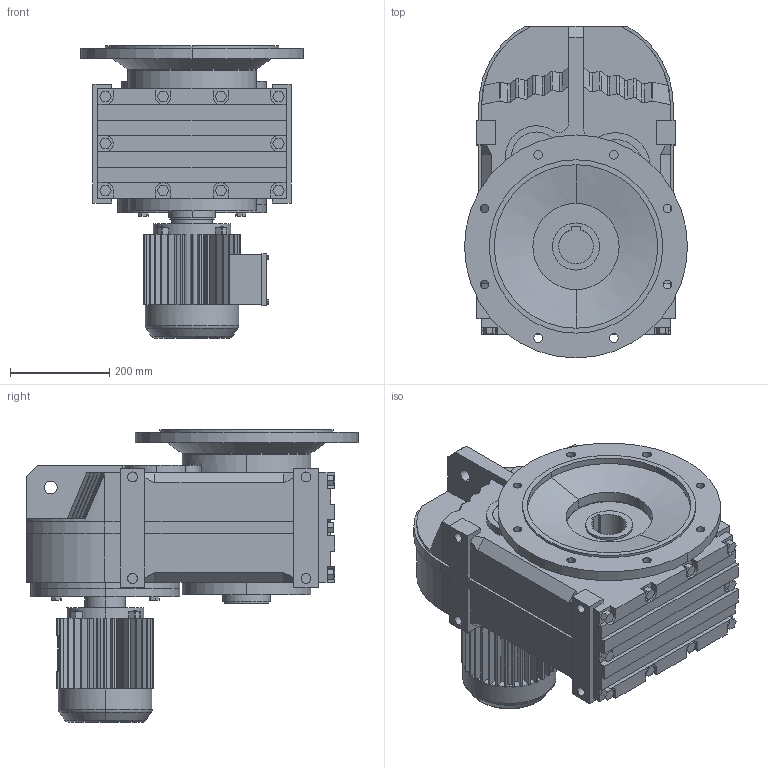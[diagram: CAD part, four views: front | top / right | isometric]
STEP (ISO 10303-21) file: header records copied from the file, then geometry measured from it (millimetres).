
FILE_DESCRIPTION(('Open CASCADE Model'),'2;1');
FILE_NAME('Open CASCADE Shape Model','2021-07-20T10:12:05',('Author'),( 'Open CASCADE'),'Open CASCADE STEP processor 6.3','Open CASCADE 6.3' ,'Unknown');
FILE_SCHEMA(('AUTOMOTIVE_DESIGN_CC2 { 1 2 10303 214 -1 1 5 4 }'));
Length unit declared in the file: millimetre
Products named in the file (5): 1_FAF97-Y90S; FA27‵157_97.step; 萇儂_300_Y90S.step; す瑩諾陑粣F_97.step; 楊擘F_97.step
Assembly tree (4 placements, depth 2):
  1_FAF97-Y90S
    FA27‵157_97.step
    萇儂_300_Y90S.step
    す瑩諾陑粣F_97.step
    楊擘F_97.step
Bounding box: 450 x 670 x 591 mm (x, y, z)
Volume: 61263781.6 mm3; surface area: 2164485.1 mm2
Topology: 4 solids, 4 shells, 814 faces, 2141 edges, 1392 vertices
Faces by surface type: plane 570, cylinder 218, bspline 16, cone 6, torus 4
Entity records: 54744 total; most frequent: CARTESIAN_POINT 13726, DIRECTION 7153, ORIENTED_EDGE 4282, PCURVE 4282, DEFINITIONAL_REPRESENTATION 4282, LINE 3957, VECTOR 3957, EDGE_CURVE 2141
